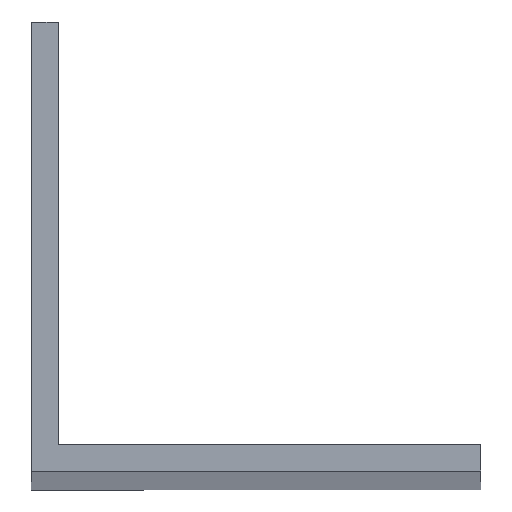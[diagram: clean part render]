
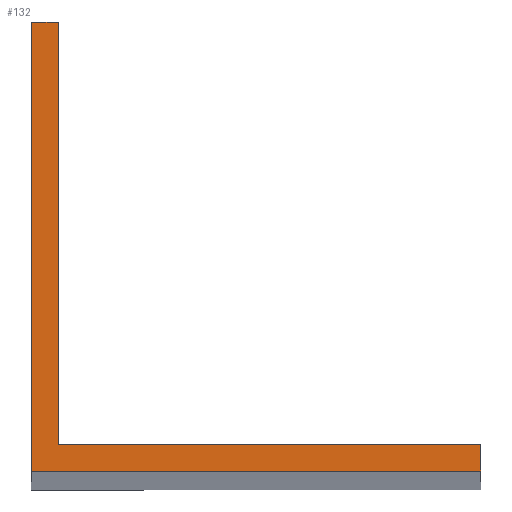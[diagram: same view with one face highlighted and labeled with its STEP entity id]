
A CAD part, top view. The second image highlights one B-rep face of the part: STEP entity #132.
In plain terms, the highlighted planar face has unit normal (0, 0, 1).
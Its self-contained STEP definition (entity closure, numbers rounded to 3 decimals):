
#132=ADVANCED_FACE('',(#152),#144,.T.);
#144=PLANE('',#327);
#152=FACE_OUTER_BOUND('',#168,.T.);
#168=EDGE_LOOP('',(#215,#216,#217,#218,#219,#220));
#215=ORIENTED_EDGE('',*,*,#249,.F.);
#216=ORIENTED_EDGE('',*,*,#273,.F.);
#217=ORIENTED_EDGE('',*,*,#270,.F.);
#218=ORIENTED_EDGE('',*,*,#263,.F.);
#219=ORIENTED_EDGE('',*,*,#260,.F.);
#220=ORIENTED_EDGE('',*,*,#253,.F.);
#229=VERTEX_POINT('',#394);
#230=VERTEX_POINT('',#395);
#233=VERTEX_POINT('',#403);
#239=VERTEX_POINT('',#417);
#241=VERTEX_POINT('',#423);
#247=VERTEX_POINT('',#437);
#249=EDGE_CURVE('',#229,#230,#275,.T.);
#253=EDGE_CURVE('',#230,#233,#279,.T.);
#260=EDGE_CURVE('',#233,#239,#282,.T.);
#263=EDGE_CURVE('',#239,#241,#285,.T.);
#270=EDGE_CURVE('',#241,#247,#288,.T.);
#273=EDGE_CURVE('',#247,#229,#291,.T.);
#275=LINE('',#393,#293);
#279=LINE('',#402,#297);
#282=LINE('',#416,#300);
#285=LINE('',#422,#303);
#288=LINE('',#436,#306);
#291=LINE('',#442,#309);
#293=VECTOR('',#334,1.);
#297=VECTOR('',#340,1.);
#300=VECTOR('',#353,1.);
#303=VECTOR('',#358,1.);
#306=VECTOR('',#371,1.);
#309=VECTOR('',#376,1.);
#327=AXIS2_PLACEMENT_3D('',#446,#382,#383);
#334=DIRECTION('',(0.,-1.,0.));
#340=DIRECTION('',(-1.,0.,0.));
#353=DIRECTION('',(0.,1.,0.));
#358=DIRECTION('',(1.,0.,0.));
#371=DIRECTION('',(0.,-1.,0.));
#376=DIRECTION('',(1.,0.,0.));
#382=DIRECTION('',(0.,0.,1.));
#383=DIRECTION('',(1.,0.,0.));
#393=CARTESIAN_POINT('',(25.,1.5,0.));
#394=CARTESIAN_POINT('',(25.,1.5,0.));
#395=CARTESIAN_POINT('',(25.,0.,0.));
#402=CARTESIAN_POINT('',(25.,0.,0.));
#403=CARTESIAN_POINT('',(0.,0.,0.));
#416=CARTESIAN_POINT('',(0.,0.,0.));
#417=CARTESIAN_POINT('',(0.,25.,0.));
#422=CARTESIAN_POINT('',(0.,25.,0.));
#423=CARTESIAN_POINT('',(1.5,25.,0.));
#436=CARTESIAN_POINT('',(1.5,25.,0.));
#437=CARTESIAN_POINT('',(1.5,1.5,0.));
#442=CARTESIAN_POINT('',(1.5,1.5,0.));
#446=CARTESIAN_POINT('',(25.,25.,0.));
